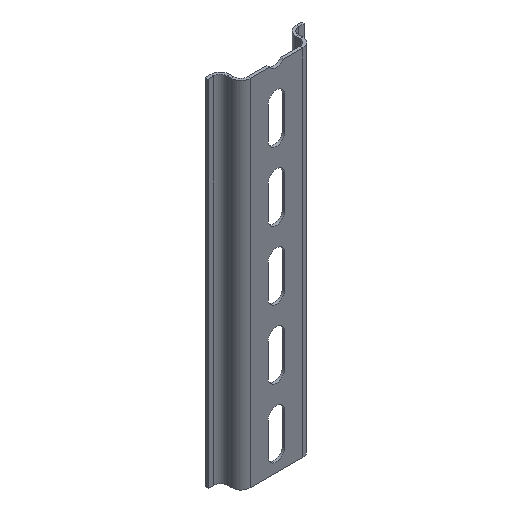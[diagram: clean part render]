
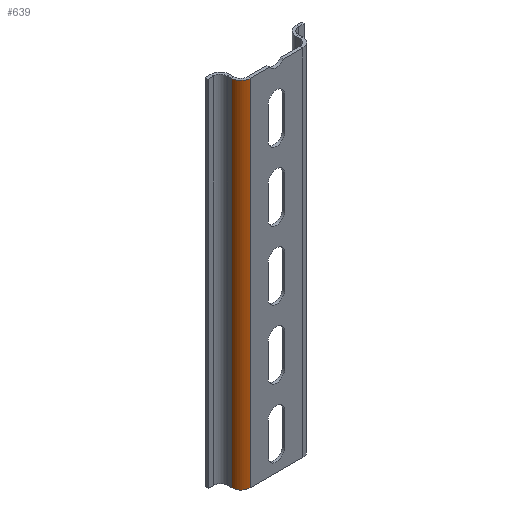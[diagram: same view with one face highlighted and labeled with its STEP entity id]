
A CAD part, isometric view. The second image highlights one B-rep face of the part: STEP entity #639.
In plain terms, the highlighted cylindrical face has radius 3.5 mm (diameter 7 mm), a partial arc.
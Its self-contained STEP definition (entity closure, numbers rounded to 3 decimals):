
#1 = VERTEX_POINT ( 'NONE', #1576 ) ;
#7 = ORIENTED_EDGE ( 'NONE', *, *, #943, .F. ) ;
#13 = EDGE_CURVE ( 'NONE', #1, #1206, #352, .T. ) ;
#44 = DIRECTION ( 'NONE',  ( 1., 0., 0. ) ) ;
#124 = VECTOR ( 'NONE', #838, 1000. ) ;
#234 = LINE ( 'NONE', #1403, #1728 ) ;
#242 = FACE_OUTER_BOUND ( 'NONE', #420, .T. ) ;
#299 = VERTEX_POINT ( 'NONE', #426 ) ;
#316 = DIRECTION ( 'NONE',  ( 0., 0., -1. ) ) ;
#352 = CIRCLE ( 'NONE', #1743, 3.5 ) ;
#369 = DIRECTION ( 'NONE',  ( -1., 0., 0. ) ) ;
#394 = CARTESIAN_POINT ( 'NONE',  ( -13.1, 2.5, 130. ) ) ;
#401 = EDGE_CURVE ( 'NONE', #454, #299, #1116, .T. ) ;
#420 = EDGE_LOOP ( 'NONE', ( #1467, #7, #523, #1106 ) ) ;
#426 = CARTESIAN_POINT ( 'NONE',  ( -13.1, 2.5, 0. ) ) ;
#454 = VERTEX_POINT ( 'NONE', #755 ) ;
#523 = ORIENTED_EDGE ( 'NONE', *, *, #13, .T. ) ;
#639 = ADVANCED_FACE ( 'NONE', ( #242 ), #1915, .T. ) ;
#717 = AXIS2_PLACEMENT_3D ( 'NONE', #1490, #316, #1349 ) ;
#755 = CARTESIAN_POINT ( 'NONE',  ( -9.6, -1., 0. ) ) ;
#801 = CARTESIAN_POINT ( 'NONE',  ( -9.6, 2.5, 130. ) ) ;
#838 = DIRECTION ( 'NONE',  ( 0., 0., -1. ) ) ;
#942 = DIRECTION ( 'NONE',  ( 0., 0., -1. ) ) ;
#943 = EDGE_CURVE ( 'NONE', #1, #454, #234, .T. ) ;
#1086 = LINE ( 'NONE', #394, #124 ) ;
#1106 = ORIENTED_EDGE ( 'NONE', *, *, #1621, .T. ) ;
#1116 = CIRCLE ( 'NONE', #717, 3.5 ) ;
#1206 = VERTEX_POINT ( 'NONE', #1783 ) ;
#1258 = CARTESIAN_POINT ( 'NONE',  ( -9.6, 2.5, 130. ) ) ;
#1349 = DIRECTION ( 'NONE',  ( 1., 0., 0. ) ) ;
#1403 = CARTESIAN_POINT ( 'NONE',  ( -9.6, -1., 130. ) ) ;
#1411 = DIRECTION ( 'NONE',  ( 0., 0., -1. ) ) ;
#1467 = ORIENTED_EDGE ( 'NONE', *, *, #401, .F. ) ;
#1490 = CARTESIAN_POINT ( 'NONE',  ( -9.6, 2.5, 0. ) ) ;
#1565 = DIRECTION ( 'NONE',  ( 0., 0., -1. ) ) ;
#1576 = CARTESIAN_POINT ( 'NONE',  ( -9.6, -1., 130. ) ) ;
#1600 = AXIS2_PLACEMENT_3D ( 'NONE', #1258, #1565, #369 ) ;
#1621 = EDGE_CURVE ( 'NONE', #1206, #299, #1086, .T. ) ;
#1728 = VECTOR ( 'NONE', #1411, 1000. ) ;
#1743 = AXIS2_PLACEMENT_3D ( 'NONE', #801, #942, #44 ) ;
#1783 = CARTESIAN_POINT ( 'NONE',  ( -13.1, 2.5, 130. ) ) ;
#1915 = CYLINDRICAL_SURFACE ( 'NONE', #1600, 3.5 ) ;
